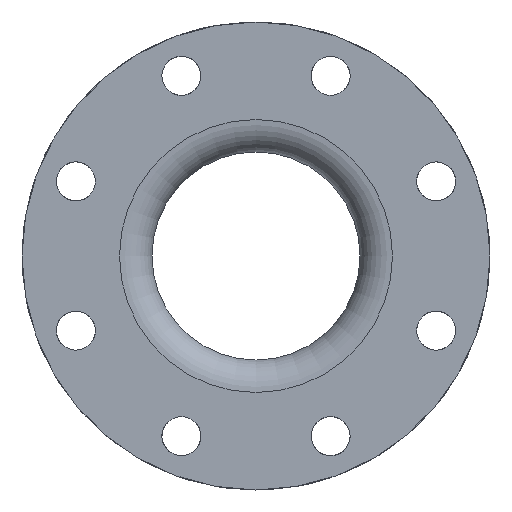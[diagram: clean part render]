
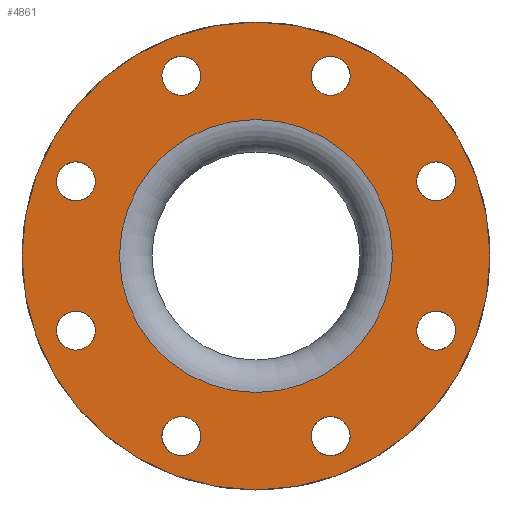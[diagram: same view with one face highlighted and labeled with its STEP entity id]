
A CAD part, front view. The second image highlights one B-rep face of the part: STEP entity #4861.
In plain terms, the highlighted planar face has unit normal (0, -1, 0).
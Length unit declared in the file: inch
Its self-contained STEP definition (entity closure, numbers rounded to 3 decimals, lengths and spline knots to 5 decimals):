
#162=FACE_BOUND('',#873,.T.);
#163=FACE_BOUND('',#874,.T.);
#164=FACE_BOUND('',#875,.T.);
#165=FACE_BOUND('',#876,.T.);
#166=FACE_BOUND('',#877,.T.);
#167=FACE_BOUND('',#878,.T.);
#168=FACE_BOUND('',#879,.T.);
#169=FACE_BOUND('',#880,.T.);
#170=FACE_BOUND('',#881,.T.);
#235=PLANE('',#5530);
#492=FACE_OUTER_BOUND('',#872,.T.);
#872=EDGE_LOOP('',(#4150));
#873=EDGE_LOOP('',(#4151));
#874=EDGE_LOOP('',(#4152));
#875=EDGE_LOOP('',(#4153));
#876=EDGE_LOOP('',(#4154));
#877=EDGE_LOOP('',(#4155));
#878=EDGE_LOOP('',(#4156));
#879=EDGE_LOOP('',(#4157));
#880=EDGE_LOOP('',(#4158));
#881=EDGE_LOOP('',(#4159));
#1709=CIRCLE('',#5463,0.375);
#1711=CIRCLE('',#5466,0.375);
#1713=CIRCLE('',#5469,0.375);
#1715=CIRCLE('',#5472,0.375);
#1717=CIRCLE('',#5475,0.375);
#1719=CIRCLE('',#5478,0.375);
#1721=CIRCLE('',#5481,0.375);
#1723=CIRCLE('',#5484,0.375);
#1750=CIRCLE('',#5529,4.5);
#1751=CIRCLE('',#5531,2.625);
#2169=VERTEX_POINT('',#8541);
#2171=VERTEX_POINT('',#8546);
#2173=VERTEX_POINT('',#8551);
#2175=VERTEX_POINT('',#8556);
#2177=VERTEX_POINT('',#8561);
#2179=VERTEX_POINT('',#8566);
#2181=VERTEX_POINT('',#8571);
#2183=VERTEX_POINT('',#8576);
#2210=VERTEX_POINT('',#8648);
#2211=VERTEX_POINT('',#8651);
#2819=EDGE_CURVE('',#2169,#2169,#1709,.T.);
#2821=EDGE_CURVE('',#2171,#2171,#1711,.T.);
#2823=EDGE_CURVE('',#2173,#2173,#1713,.T.);
#2825=EDGE_CURVE('',#2175,#2175,#1715,.T.);
#2827=EDGE_CURVE('',#2177,#2177,#1717,.T.);
#2829=EDGE_CURVE('',#2179,#2179,#1719,.T.);
#2831=EDGE_CURVE('',#2181,#2181,#1721,.T.);
#2833=EDGE_CURVE('',#2183,#2183,#1723,.T.);
#2860=EDGE_CURVE('',#2210,#2210,#1750,.T.);
#2861=EDGE_CURVE('',#2211,#2211,#1751,.T.);
#4150=ORIENTED_EDGE('',*,*,#2860,.T.);
#4151=ORIENTED_EDGE('',*,*,#2819,.T.);
#4152=ORIENTED_EDGE('',*,*,#2821,.T.);
#4153=ORIENTED_EDGE('',*,*,#2823,.T.);
#4154=ORIENTED_EDGE('',*,*,#2825,.T.);
#4155=ORIENTED_EDGE('',*,*,#2827,.T.);
#4156=ORIENTED_EDGE('',*,*,#2829,.T.);
#4157=ORIENTED_EDGE('',*,*,#2831,.T.);
#4158=ORIENTED_EDGE('',*,*,#2833,.T.);
#4159=ORIENTED_EDGE('',*,*,#2861,.F.);
#4861=ADVANCED_FACE('',(#492,#162,#163,#164,#165,#166,#167,#168,#169,#170),
#235,.T.);
#5463=AXIS2_PLACEMENT_3D('',#8542,#6957,#6958);
#5466=AXIS2_PLACEMENT_3D('',#8547,#6963,#6964);
#5469=AXIS2_PLACEMENT_3D('',#8552,#6969,#6970);
#5472=AXIS2_PLACEMENT_3D('',#8557,#6975,#6976);
#5475=AXIS2_PLACEMENT_3D('',#8562,#6981,#6982);
#5478=AXIS2_PLACEMENT_3D('',#8567,#6987,#6988);
#5481=AXIS2_PLACEMENT_3D('',#8572,#6993,#6994);
#5484=AXIS2_PLACEMENT_3D('',#8577,#6999,#7000);
#5529=AXIS2_PLACEMENT_3D('',#8649,#7089,#7090);
#5530=AXIS2_PLACEMENT_3D('',#8650,#7091,#7092);
#5531=AXIS2_PLACEMENT_3D('',#8652,#7093,#7094);
#6957=DIRECTION('center_axis',(0.,1.,0.));
#6958=DIRECTION('ref_axis',(0.707,0.,0.707));
#6963=DIRECTION('center_axis',(0.,1.,0.));
#6964=DIRECTION('ref_axis',(1.,0.,0.));
#6969=DIRECTION('center_axis',(0.,1.,0.));
#6970=DIRECTION('ref_axis',(0.707,0.,-0.707));
#6975=DIRECTION('center_axis',(0.,1.,0.));
#6976=DIRECTION('ref_axis',(0.,0.,
-1.));
#6981=DIRECTION('center_axis',(0.,1.,0.));
#6982=DIRECTION('ref_axis',(-0.707,0.,-0.707));
#6987=DIRECTION('center_axis',(0.,1.,0.));
#6988=DIRECTION('ref_axis',(-1.,0.,0.));
#6993=DIRECTION('center_axis',(0.,1.,0.));
#6994=DIRECTION('ref_axis',(-0.707,0.,0.707));
#6999=DIRECTION('center_axis',(0.,1.,0.));
#7000=DIRECTION('ref_axis',(0.,0.,
1.));
#7089=DIRECTION('center_axis',(0.,-1.,0.));
#7090=DIRECTION('ref_axis',(1.,0.,0.));
#7091=DIRECTION('center_axis',(0.,-1.,0.));
#7092=DIRECTION('ref_axis',(0.,0.,-1.));
#7093=DIRECTION('center_axis',(0.,-1.,0.));
#7094=DIRECTION('ref_axis',(1.,0.,0.));
#8541=CARTESIAN_POINT('',(3.19938,-12.,-1.70023));
#8542=CARTESIAN_POINT('Origin',(3.46455,-12.,-1.43506));
#8546=CARTESIAN_POINT('',(1.06006,-12.,-3.46455));
#8547=CARTESIAN_POINT('Origin',(1.43506,-12.,-3.46455));
#8551=CARTESIAN_POINT('',(-1.70023,-12.,-3.19938));
#8552=CARTESIAN_POINT('Origin',(-1.43506,-12.,-3.46455));
#8556=CARTESIAN_POINT('',(-3.46455,-12.,-1.06006));
#8557=CARTESIAN_POINT('Origin',(-3.46455,-12.,-1.43506));
#8561=CARTESIAN_POINT('',(-3.19938,-12.,1.70023));
#8562=CARTESIAN_POINT('Origin',(-3.46455,-12.,1.43506));
#8566=CARTESIAN_POINT('',(-1.06006,-12.,3.46455));
#8567=CARTESIAN_POINT('Origin',(-1.43506,-12.,3.46455));
#8571=CARTESIAN_POINT('',(1.70023,-12.,3.19938));
#8572=CARTESIAN_POINT('Origin',(1.43506,-12.,3.46455));
#8576=CARTESIAN_POINT('',(3.46455,-12.,1.06006));
#8577=CARTESIAN_POINT('Origin',(3.46455,-12.,1.43506));
#8648=CARTESIAN_POINT('',(4.5,-12.,0.));
#8649=CARTESIAN_POINT('Origin',(0.,-12.,0.));
#8650=CARTESIAN_POINT('Origin',(3.5625,-12.,0.));
#8651=CARTESIAN_POINT('',(2.625,-12.,0.));
#8652=CARTESIAN_POINT('Origin',(0.,-12.,0.));
